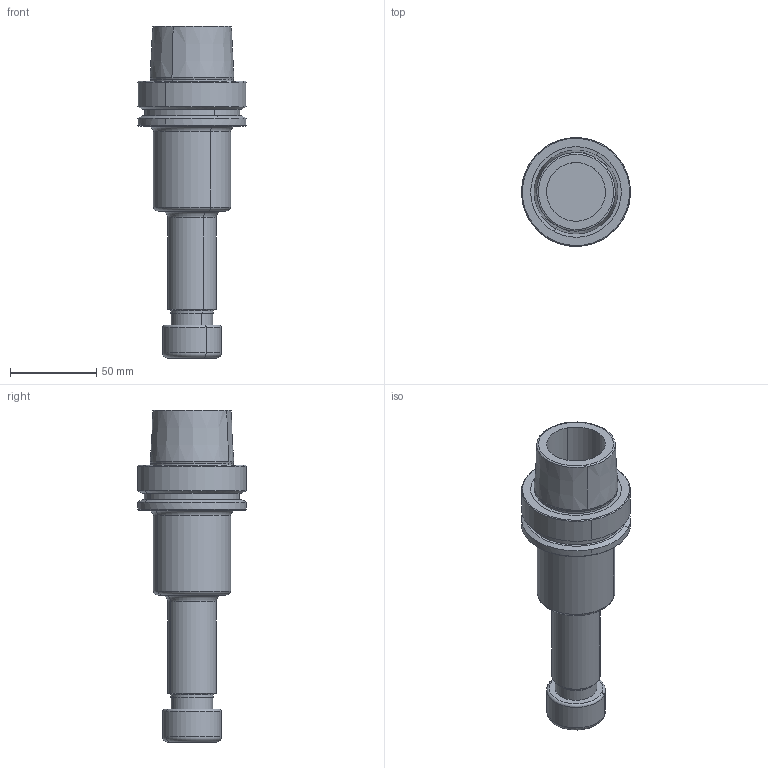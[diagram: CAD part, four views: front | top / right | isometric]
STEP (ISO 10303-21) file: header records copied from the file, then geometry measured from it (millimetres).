
FILE_DESCRIPTION(('CATIA V5 STEP','CAx-IF Rec.Pracs.--- Model Styling and Organization---1.2---2011-12-15'),'2;1');
FILE_NAME('\\nas01\drv1\utils\eitdev\rte\eit\transmagicconvert\db\out\635929429294000478\4561292-L-B.stp','2016-03-07T08:22:23+00:00',('none'),('none'),'CATIA Version 5 Release 21 SP 5 (IN-10)','CATIA V5 STEP AP214','none');
FILE_SCHEMA(('AUTOMOTIVE_DESIGN { 1 0 10303 214 1 1 1 1 }'));
Length unit declared in the file: millimetre
Products named in the file (1): HSK A 63 ER20X160 M 
Bounding box: 62.98 x 63 x 192 mm (x, y, z)
Volume: 219478.2 mm3; surface area: 38311.3 mm2
Topology: 1 solids, 1 shells, 75 faces, 162 edges, 97 vertices
Faces by surface type: cylinder 26, cone 20, torus 18, plane 11
Entity records: 1957 total; most frequent: CARTESIAN_POINT 463, ORIENTED_EDGE 320, DIRECTION 242, EDGE_CURVE 160, AXIS2_PLACEMENT_3D 152, CIRCLE 106, VERTEX_POINT 97, EDGE_LOOP 85
